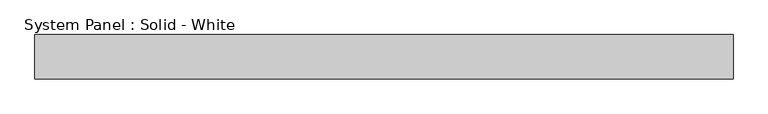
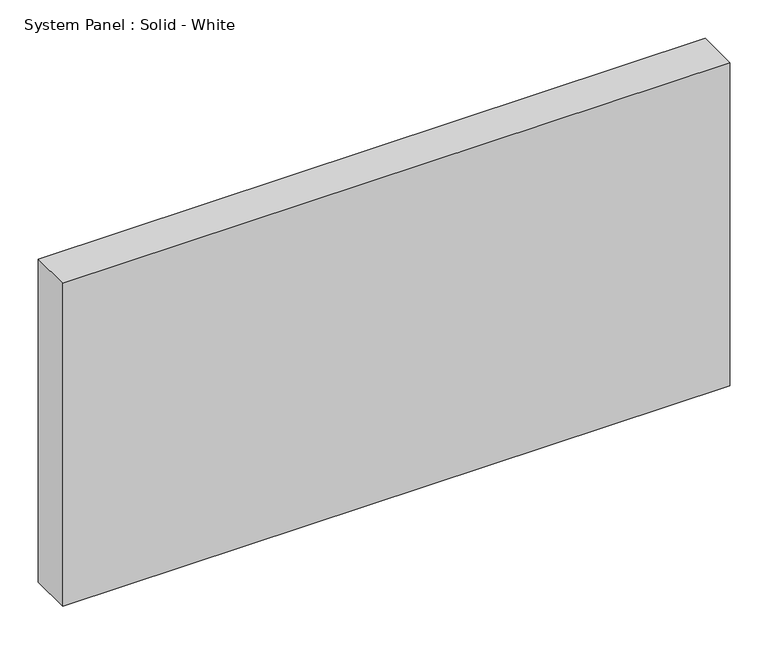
"""IFC4 building model written with IfcOpenShell, lengths in millimetres: plate geometry, System Panel : Solid - White."""

from ifc_helpers import new_model, si_unit, origin, origin_with_axes, place, context, project, spatial, polyline, outline, extrude, source, transform, mapped, element, save


def system_panel_solid_white_f1b6422f(model_context):
    return source(origin(), model_context, "Body", "SweptSolid", [
        extrude(outline(polyline([(502.2628531, -19.05), (-502.2628531, -19.05), (-502.2628531, 44.45), (502.2628531, 44.45), (502.2628531, -19.05)])), origin_with_axes(), (0.0, 0.0, 1.0), 514.35),
    ])


if __name__ == "__main__":
    model = new_model("IFC4")
    model_context = context("Model", 3, world=origin())
    ifc_project = project(units=[si_unit("LENGTHUNIT", "METRE", prefix="MILLI")], contexts=[model_context])
    site = spatial("IfcSite", under=ifc_project)
    building = spatial("IfcBuilding", under=site)
    placement = place(None, origin())
    system_panel_solid_white_shape = system_panel_solid_white_f1b6422f(model_context)
    element("IfcPlate", 1, ObjectType="System Panel : Solid - White", at=placement, inside=building, context=model_context, shape_type="MappedRepresentation", body=[
        mapped(system_panel_solid_white_shape, transform((0.0, 0.0, 0.0), x_axis=(1.0, 0.0, 0.0), y_axis=(0.0, 1.0, 0.0), z_axis=(0.0, 0.0, 1.0))),
    ])
    save(model, "model.ifc")
